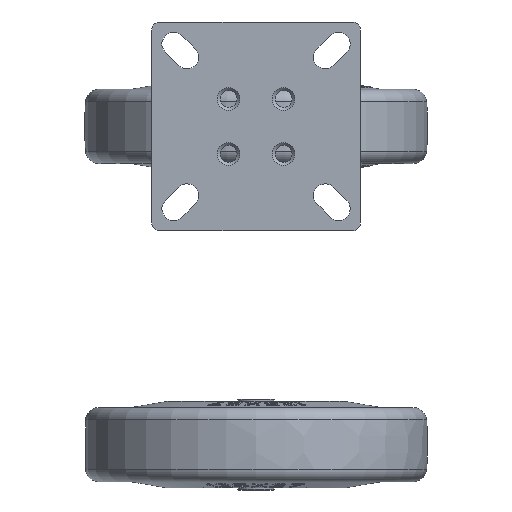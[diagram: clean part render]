
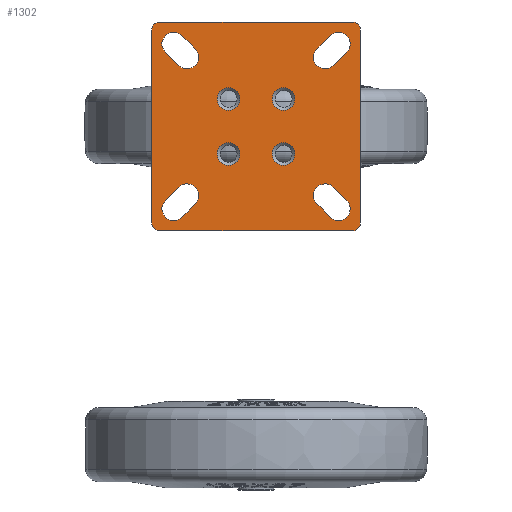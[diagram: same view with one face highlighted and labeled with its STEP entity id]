
A CAD part, front view. The second image highlights one B-rep face of the part: STEP entity #1302.
In plain terms, the highlighted planar face has unit normal (0, -1, 0) as drawn and (0, 0, 1) by its records, which use the part's own axes.
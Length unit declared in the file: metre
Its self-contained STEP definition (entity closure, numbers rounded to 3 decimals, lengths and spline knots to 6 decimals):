
#1302=ADVANCED_FACE('',(#3773,#3774,#3775,#3776,#3777,#3778,#3779,#3780,#3781),#3782,.T.);
#3773=FACE_OUTER_BOUND('',#7349,.T.);
#3774=FACE_BOUND('',#7350,.T.);
#3775=FACE_BOUND('',#7351,.T.);
#3776=FACE_BOUND('',#7352,.T.);
#3777=FACE_BOUND('',#7353,.T.);
#3778=FACE_BOUND('',#7354,.T.);
#3779=FACE_BOUND('',#7355,.T.);
#3780=FACE_BOUND('',#7356,.T.);
#3781=FACE_BOUND('',#7357,.T.);
#3782=PLANE('',#7358);
#7349=EDGE_LOOP('',(#19862,#19863,#19864,#19865,#19866,#19867,#19868,#19869));
#7350=EDGE_LOOP('',(#19870,#19871,#19872,#19873));
#7351=EDGE_LOOP('',(#19874,#19875,#19876,#19877));
#7352=EDGE_LOOP('',(#19878,#19879,#19880,#19881));
#7353=EDGE_LOOP('',(#19882,#19883,#19884,#19885));
#7354=EDGE_LOOP('',(#19886));
#7355=EDGE_LOOP('',(#19887));
#7356=EDGE_LOOP('',(#19888));
#7357=EDGE_LOOP('',(#19889));
#7358=AXIS2_PLACEMENT_3D('',#19890,#19891,#19892);
#19862=ORIENTED_EDGE('',*,*,#26769,.T.);
#19863=ORIENTED_EDGE('',*,*,#26770,.T.);
#19864=ORIENTED_EDGE('',*,*,#26771,.T.);
#19865=ORIENTED_EDGE('',*,*,#26772,.T.);
#19866=ORIENTED_EDGE('',*,*,#26773,.T.);
#19867=ORIENTED_EDGE('',*,*,#26774,.T.);
#19868=ORIENTED_EDGE('',*,*,#26765,.T.);
#19869=ORIENTED_EDGE('',*,*,#26768,.T.);
#19870=ORIENTED_EDGE('',*,*,#26775,.T.);
#19871=ORIENTED_EDGE('',*,*,#26776,.T.);
#19872=ORIENTED_EDGE('',*,*,#26777,.T.);
#19873=ORIENTED_EDGE('',*,*,#26778,.T.);
#19874=ORIENTED_EDGE('',*,*,#26779,.T.);
#19875=ORIENTED_EDGE('',*,*,#26780,.T.);
#19876=ORIENTED_EDGE('',*,*,#26781,.T.);
#19877=ORIENTED_EDGE('',*,*,#26782,.T.);
#19878=ORIENTED_EDGE('',*,*,#26783,.T.);
#19879=ORIENTED_EDGE('',*,*,#26784,.T.);
#19880=ORIENTED_EDGE('',*,*,#26785,.T.);
#19881=ORIENTED_EDGE('',*,*,#26786,.T.);
#19882=ORIENTED_EDGE('',*,*,#26787,.T.);
#19883=ORIENTED_EDGE('',*,*,#26788,.T.);
#19884=ORIENTED_EDGE('',*,*,#26789,.T.);
#19885=ORIENTED_EDGE('',*,*,#26790,.T.);
#19886=ORIENTED_EDGE('',*,*,#26791,.T.);
#19887=ORIENTED_EDGE('',*,*,#26792,.T.);
#19888=ORIENTED_EDGE('',*,*,#26793,.T.);
#19889=ORIENTED_EDGE('',*,*,#26794,.T.);
#19890=CARTESIAN_POINT('',(0.0,0.0,0.0025));
#19891=DIRECTION('',(0.0,0.0,1.0));
#19892=DIRECTION('',(1.0,0.0,0.0));
#26765=EDGE_CURVE('',#32614,#32612,#32615,.T.);
#26768=EDGE_CURVE('',#32612,#32617,#32619,.T.);
#26769=EDGE_CURVE('',#32617,#32620,#32621,.T.);
#26770=EDGE_CURVE('',#32620,#32622,#32623,.T.);
#26771=EDGE_CURVE('',#32622,#32624,#32625,.T.);
#26772=EDGE_CURVE('',#32624,#32626,#32627,.T.);
#26773=EDGE_CURVE('',#32626,#32628,#32629,.T.);
#26774=EDGE_CURVE('',#32628,#32614,#32630,.T.);
#26775=EDGE_CURVE('',#32631,#32632,#32633,.T.);
#26776=EDGE_CURVE('',#32632,#32634,#32635,.T.);
#26777=EDGE_CURVE('',#32634,#32636,#32637,.T.);
#26778=EDGE_CURVE('',#32636,#32631,#32638,.T.);
#26779=EDGE_CURVE('',#32639,#32640,#32641,.T.);
#26780=EDGE_CURVE('',#32640,#32642,#32643,.T.);
#26781=EDGE_CURVE('',#32642,#32644,#32645,.T.);
#26782=EDGE_CURVE('',#32644,#32639,#32646,.T.);
#26783=EDGE_CURVE('',#32647,#32648,#32649,.T.);
#26784=EDGE_CURVE('',#32648,#32650,#32651,.T.);
#26785=EDGE_CURVE('',#32650,#32652,#32653,.T.);
#26786=EDGE_CURVE('',#32652,#32647,#32654,.T.);
#26787=EDGE_CURVE('',#32655,#32656,#32657,.T.);
#26788=EDGE_CURVE('',#32656,#32658,#32659,.T.);
#26789=EDGE_CURVE('',#32658,#32660,#32661,.T.);
#26790=EDGE_CURVE('',#32660,#32655,#32662,.T.);
#26791=EDGE_CURVE('',#32663,#32663,#32664,.T.);
#26792=EDGE_CURVE('',#32665,#32665,#32666,.T.);
#26793=EDGE_CURVE('',#32667,#32667,#32668,.T.);
#26794=EDGE_CURVE('',#32669,#32669,#32670,.T.);
#32612=VERTEX_POINT('',#42396);
#32614=VERTEX_POINT('',#42399);
#32615=CIRCLE('',#42400,0.003);
#32617=VERTEX_POINT('',#42403);
#32619=LINE('',#42406,#42407);
#32620=VERTEX_POINT('',#42408);
#32621=CIRCLE('',#42409,0.003);
#32622=VERTEX_POINT('',#42410);
#32623=LINE('',#42411,#42412);
#32624=VERTEX_POINT('',#42413);
#32625=CIRCLE('',#42414,0.003);
#32626=VERTEX_POINT('',#42415);
#32627=LINE('',#42416,#42417);
#32628=VERTEX_POINT('',#42418);
#32629=CIRCLE('',#42419,0.003);
#32630=LINE('',#42420,#42421);
#32631=VERTEX_POINT('',#42422);
#32632=VERTEX_POINT('',#42423);
#32633=CIRCLE('',#42424,0.00425);
#32634=VERTEX_POINT('',#42425);
#32635=LINE('',#42426,#42427);
#32636=VERTEX_POINT('',#42428);
#32637=CIRCLE('',#42429,0.00425);
#32638=LINE('',#42430,#42431);
#32639=VERTEX_POINT('',#42432);
#32640=VERTEX_POINT('',#42433);
#32641=CIRCLE('',#42434,0.00425);
#32642=VERTEX_POINT('',#42435);
#32643=LINE('',#42436,#42437);
#32644=VERTEX_POINT('',#42438);
#32645=CIRCLE('',#42439,0.00425);
#32646=LINE('',#42440,#42441);
#32647=VERTEX_POINT('',#42442);
#32648=VERTEX_POINT('',#42443);
#32649=CIRCLE('',#42444,0.00425);
#32650=VERTEX_POINT('',#42445);
#32651=LINE('',#42446,#42447);
#32652=VERTEX_POINT('',#42448);
#32653=CIRCLE('',#42449,0.00425);
#32654=LINE('',#42450,#42451);
#32655=VERTEX_POINT('',#42452);
#32656=VERTEX_POINT('',#42453);
#32657=CIRCLE('',#42454,0.00425);
#32658=VERTEX_POINT('',#42455);
#32659=LINE('',#42456,#42457);
#32660=VERTEX_POINT('',#42458);
#32661=CIRCLE('',#42459,0.00425);
#32662=LINE('',#42460,#42461);
#32663=VERTEX_POINT('',#42462);
#32664=CIRCLE('',#42463,0.0041);
#32665=VERTEX_POINT('',#42464);
#32666=CIRCLE('',#42465,0.0041);
#32667=VERTEX_POINT('',#42466);
#32668=CIRCLE('',#42467,0.0041);
#32669=VERTEX_POINT('',#42468);
#32670=CIRCLE('',#42469,0.0041);
#42396=CARTESIAN_POINT('',(0.038,-0.035,0.0025));
#42399=CARTESIAN_POINT('',(0.035,-0.038,0.0025));
#42400=AXIS2_PLACEMENT_3D('',#54791,#54792,#54793);
#42403=CARTESIAN_POINT('',(0.038,0.035,0.0025));
#42406=CARTESIAN_POINT('',(0.038,0.0,0.0025));
#42407=VECTOR('',#54796,1.0);
#42408=CARTESIAN_POINT('',(0.035,0.038,0.0025));
#42409=AXIS2_PLACEMENT_3D('',#54797,#54798,#54799);
#42410=CARTESIAN_POINT('',(-0.035,0.038,0.0025));
#42411=CARTESIAN_POINT('',(0.0,0.038,0.0025));
#42412=VECTOR('',#54800,1.0);
#42413=CARTESIAN_POINT('',(-0.038,0.035,0.0025));
#42414=AXIS2_PLACEMENT_3D('',#54801,#54802,#54803);
#42415=CARTESIAN_POINT('',(-0.038,-0.035,0.0025));
#42416=CARTESIAN_POINT('',(-0.038,0.0,0.0025));
#42417=VECTOR('',#54804,1.0);
#42418=CARTESIAN_POINT('',(-0.035,-0.038,0.0025));
#42419=AXIS2_PLACEMENT_3D('',#54805,#54806,#54807);
#42420=CARTESIAN_POINT('',(0.0,-0.038,0.0025));
#42421=VECTOR('',#54808,1.0);
#42422=CARTESIAN_POINT('',(0.033005,-0.026995,0.0025));
#42423=CARTESIAN_POINT('',(0.026995,-0.033005,0.0025));
#42424=AXIS2_PLACEMENT_3D('',#54809,#54810,#54811);
#42425=CARTESIAN_POINT('',(0.022145,-0.028155,0.0025));
#42426=CARTESIAN_POINT('',(-0.003005,-0.003005,0.0025));
#42427=VECTOR('',#54812,1.0);
#42428=CARTESIAN_POINT('',(0.028155,-0.022145,0.0025));
#42429=AXIS2_PLACEMENT_3D('',#54813,#54814,#54815);
#42430=CARTESIAN_POINT('',(0.003005,0.003005,0.0025));
#42431=VECTOR('',#54816,1.0);
#42432=CARTESIAN_POINT('',(0.028155,0.022145,0.0025));
#42433=CARTESIAN_POINT('',(0.022145,0.028155,0.0025));
#42434=AXIS2_PLACEMENT_3D('',#54817,#54818,#54819);
#42435=CARTESIAN_POINT('',(0.026995,0.033005,0.0025));
#42436=CARTESIAN_POINT('',(-0.003005,0.003005,0.0025));
#42437=VECTOR('',#54820,1.0);
#42438=CARTESIAN_POINT('',(0.033005,0.026995,0.0025));
#42439=AXIS2_PLACEMENT_3D('',#54821,#54822,#54823);
#42440=CARTESIAN_POINT('',(0.003005,-0.003005,0.0025));
#42441=VECTOR('',#54824,1.0);
#42442=CARTESIAN_POINT('',(-0.022145,0.028155,0.0025));
#42443=CARTESIAN_POINT('',(-0.028155,0.022145,0.0025));
#42444=AXIS2_PLACEMENT_3D('',#54825,#54826,#54827);
#42445=CARTESIAN_POINT('',(-0.033005,0.026995,0.0025));
#42446=CARTESIAN_POINT('',(-0.003005,-0.003005,0.0025));
#42447=VECTOR('',#54828,1.0);
#42448=CARTESIAN_POINT('',(-0.026995,0.033005,0.0025));
#42449=AXIS2_PLACEMENT_3D('',#54829,#54830,#54831);
#42450=CARTESIAN_POINT('',(0.003005,0.003005,0.0025));
#42451=VECTOR('',#54832,1.0);
#42452=CARTESIAN_POINT('',(-0.028155,-0.022145,0.0025));
#42453=CARTESIAN_POINT('',(-0.022145,-0.028155,0.0025));
#42454=AXIS2_PLACEMENT_3D('',#54833,#54834,#54835);
#42455=CARTESIAN_POINT('',(-0.026995,-0.033005,0.0025));
#42456=CARTESIAN_POINT('',(0.003005,-0.003005,0.0025));
#42457=VECTOR('',#54836,1.0);
#42458=CARTESIAN_POINT('',(-0.033005,-0.026995,0.0025));
#42459=AXIS2_PLACEMENT_3D('',#54837,#54838,#54839);
#42460=CARTESIAN_POINT('',(-0.003005,0.003005,0.0025));
#42461=VECTOR('',#54840,1.0);
#42462=CARTESIAN_POINT('',(0.0141,-0.01,0.0025));
#42463=AXIS2_PLACEMENT_3D('',#54841,#54842,#54843);
#42464=CARTESIAN_POINT('',(-0.0059,-0.01,0.0025));
#42465=AXIS2_PLACEMENT_3D('',#54844,#54845,#54846);
#42466=CARTESIAN_POINT('',(0.0141,0.01,0.0025));
#42467=AXIS2_PLACEMENT_3D('',#54847,#54848,#54849);
#42468=CARTESIAN_POINT('',(-0.0059,0.01,0.0025));
#42469=AXIS2_PLACEMENT_3D('',#54850,#54851,#54852);
#54791=CARTESIAN_POINT('',(0.035,-0.035,0.0025));
#54792=DIRECTION('',(0.0,0.0,1.0));
#54793=DIRECTION('',(1.0,0.0,0.0));
#54796=DIRECTION('',(0.0,1.0,0.0));
#54797=CARTESIAN_POINT('',(0.035,0.035,0.0025));
#54798=DIRECTION('',(0.0,0.0,1.0));
#54799=DIRECTION('',(1.0,0.0,0.0));
#54800=DIRECTION('',(-1.0,0.0,0.0));
#54801=CARTESIAN_POINT('',(-0.035,0.035,0.0025));
#54802=DIRECTION('',(0.0,0.0,1.0));
#54803=DIRECTION('',(1.0,0.0,0.0));
#54804=DIRECTION('',(0.0,-1.0,0.0));
#54805=CARTESIAN_POINT('',(-0.035,-0.035,0.0025));
#54806=DIRECTION('',(0.0,0.0,1.0));
#54807=DIRECTION('',(1.0,0.0,0.0));
#54808=DIRECTION('',(1.0,0.0,0.0));
#54809=CARTESIAN_POINT('',(0.03,-0.03,0.0025));
#54810=DIRECTION('',(0.0,0.0,-1.0));
#54811=DIRECTION('',(1.0,0.0,0.0));
#54812=DIRECTION('',(-0.707,0.707,0.0));
#54813=CARTESIAN_POINT('',(0.02515,-0.02515,0.0025));
#54814=DIRECTION('',(0.0,0.0,-1.0));
#54815=DIRECTION('',(1.0,0.0,0.0));
#54816=DIRECTION('',(0.707,-0.707,0.0));
#54817=CARTESIAN_POINT('',(0.02515,0.02515,0.0025));
#54818=DIRECTION('',(0.0,0.0,-1.0));
#54819=DIRECTION('',(1.0,0.0,0.0));
#54820=DIRECTION('',(0.707,0.707,0.0));
#54821=CARTESIAN_POINT('',(0.03,0.03,0.0025));
#54822=DIRECTION('',(0.0,0.0,-1.0));
#54823=DIRECTION('',(1.0,0.0,0.0));
#54824=DIRECTION('',(-0.707,-0.707,0.0));
#54825=CARTESIAN_POINT('',(-0.02515,0.02515,0.0025));
#54826=DIRECTION('',(0.0,0.0,-1.0));
#54827=DIRECTION('',(1.0,0.0,0.0));
#54828=DIRECTION('',(-0.707,0.707,0.0));
#54829=CARTESIAN_POINT('',(-0.03,0.03,0.0025));
#54830=DIRECTION('',(0.0,0.0,-1.0));
#54831=DIRECTION('',(1.0,0.0,0.0));
#54832=DIRECTION('',(0.707,-0.707,0.0));
#54833=CARTESIAN_POINT('',(-0.02515,-0.02515,0.0025));
#54834=DIRECTION('',(0.0,0.0,-1.0));
#54835=DIRECTION('',(1.0,0.0,0.0));
#54836=DIRECTION('',(-0.707,-0.707,0.0));
#54837=CARTESIAN_POINT('',(-0.03,-0.03,0.0025));
#54838=DIRECTION('',(0.0,0.0,-1.0));
#54839=DIRECTION('',(1.0,0.0,0.0));
#54840=DIRECTION('',(0.707,0.707,0.0));
#54841=CARTESIAN_POINT('',(0.01,-0.01,0.0025));
#54842=DIRECTION('',(0.0,0.0,-1.0));
#54843=DIRECTION('',(1.0,0.0,0.0));
#54844=CARTESIAN_POINT('',(-0.01,-0.01,0.0025));
#54845=DIRECTION('',(0.0,0.0,-1.0));
#54846=DIRECTION('',(1.0,0.0,0.0));
#54847=CARTESIAN_POINT('',(0.01,0.01,0.0025));
#54848=DIRECTION('',(0.0,0.0,-1.0));
#54849=DIRECTION('',(1.0,0.0,0.0));
#54850=CARTESIAN_POINT('',(-0.01,0.01,0.0025));
#54851=DIRECTION('',(0.0,0.0,-1.0));
#54852=DIRECTION('',(1.0,0.0,0.0));
